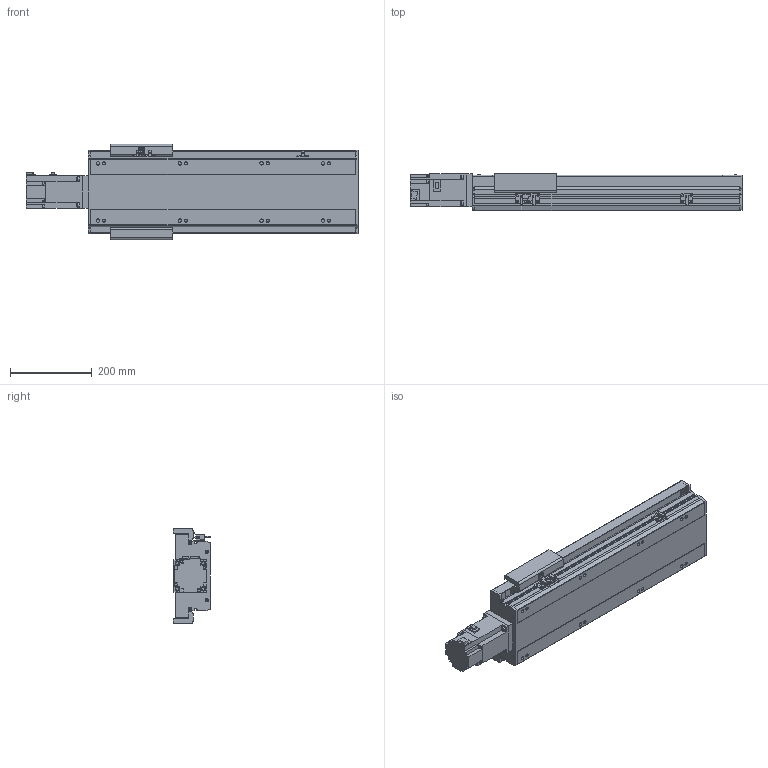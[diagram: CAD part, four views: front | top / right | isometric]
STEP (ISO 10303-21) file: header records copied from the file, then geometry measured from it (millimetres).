
FILE_DESCRIPTION(/* description */ ('STEP AP214'),/* implementation_level */ '2;1');
FILE_NAME(/* name */ 'PSM170-L10-S400-BC-T75-C1-N(0)',/* time_stamp */ '2022-06-13T03:24:06+02:00',/* author */ ('License CC BY-ND 4.0'),/* organization */ ('CADENAS'),/* preprocessor_version */ 'ST-DEVELOPER v18.102',/* originating_system */ 'PARTsolutions',/* authorisation */ ' ');
FILE_SCHEMA (('AUTOMOTIVE_DESIGN {1 0 10303 214 3 1 1}'));
Length unit declared in the file: millimetre
Products named in the file (8): PSM170-L10-S400-BC-T75-C1-N(0); PSM-Sensor; PSM140-S400-642.5; T75-p1; PSM170_body2; PSM170_body3; PSM170-S400_body1; PSM170-L10-S400-BC-T75-C1-N(0)_dummy
Assembly tree (11 placements, depth 2):
  PSM170-L10-S400-BC-T75-C1-N(0)
    PSM-Sensor  x3
    PSM140-S400-642.5  x3
    T75-p1
    PSM170_body2
    PSM170_body3
    PSM170-S400_body1
    PSM170-L10-S400-BC-T75-C1-N(0)_dummy
Bounding box: 811.3 x 92 x 233 mm (x, y, z)
Volume: 5107325.5 mm3; surface area: 965314.7 mm2
Topology: 10 solids, 10 shells, 1003 faces, 2670 edges, 1739 vertices
Faces by surface type: plane 644, cylinder 289, cone 56, torus 14
Full cylindrical faces by diameter (mm): 2.8 x3, 3.08 x1, 4.134 x4, 4.5 x12, 4.6 x3, 5.7 x2, 6 x9, 6.647 x16, 7 x8, 7.6 x4, 8 x8, 8.5 x8, 10 x4, 14 x8, 45 x1, 70 x1
Entity records: 26167 total; most frequent: CARTESIAN_POINT 4726, DIRECTION 4396, ORIENTED_EDGE 4204, EDGE_CURVE 2102, AXIS2_PLACEMENT_3D 1473, VERTEX_POINT 1466, LINE 1450, VECTOR 1450
